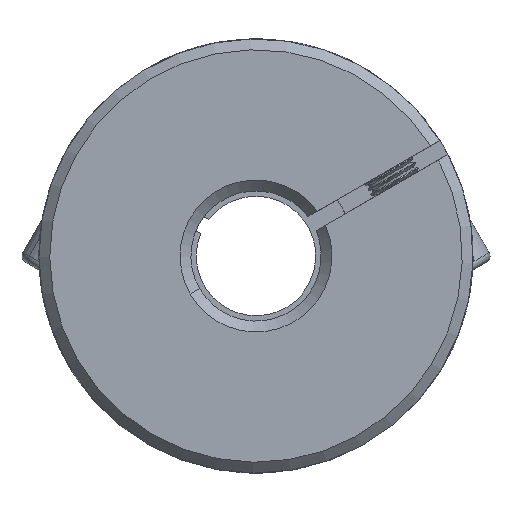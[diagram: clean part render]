
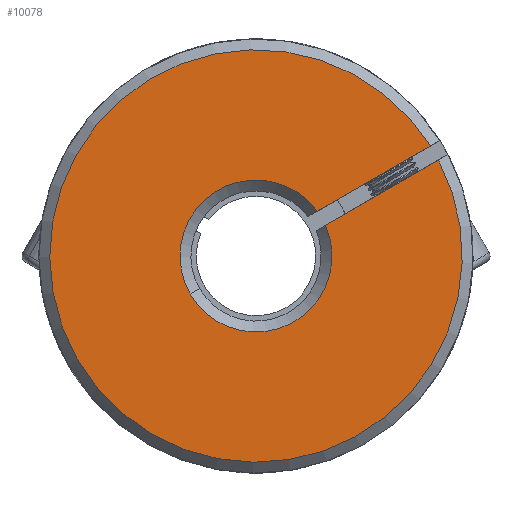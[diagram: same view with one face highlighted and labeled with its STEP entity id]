
A CAD part, front view. The second image highlights one B-rep face of the part: STEP entity #10078.
In plain terms, the highlighted planar face has unit normal (0, -1, 0).
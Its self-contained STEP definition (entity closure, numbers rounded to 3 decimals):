
#29 = ORIENTED_EDGE ( 'NONE', *, *, #12526, .T. ) ;
#378 = DIRECTION ( 'NONE',  ( 0.5, 0., -0.866 ) ) ;
#582 = CARTESIAN_POINT ( 'NONE',  ( -1.447, -31.239, 40. ) ) ;
#588 = VERTEX_POINT ( 'NONE', #6231 ) ;
#630 = ORIENTED_EDGE ( 'NONE', *, *, #8277, .F. ) ;
#962 = CARTESIAN_POINT ( 'NONE',  ( 4.083, -31.239, 42.329 ) ) ;
#1059 = ORIENTED_EDGE ( 'NONE', *, *, #13452, .F. ) ;
#1393 = DIRECTION ( 'NONE',  ( -0.866, 0., -0.5 ) ) ;
#1434 = CARTESIAN_POINT ( 'NONE',  ( -7.508, -31.239, 36.498 ) ) ;
#1847 = VERTEX_POINT ( 'NONE', #1434 ) ;
#2015 = CARTESIAN_POINT ( 'NONE',  ( 4.954, -31.239, 42.832 ) ) ;
#2135 = DIRECTION ( 'NONE',  ( 0.5, 0., -0.866 ) ) ;
#2177 = DIRECTION ( 'NONE',  ( 0., 1., 0. ) ) ;
#3001 = LINE ( 'NONE', #10188, #13800 ) ;
#3471 = CARTESIAN_POINT ( 'NONE',  ( 15.367, -31.239, 48.848 ) ) ;
#3682 = AXIS2_PLACEMENT_3D ( 'NONE', #11871, #7523, #9689 ) ;
#4314 = CARTESIAN_POINT ( 'NONE',  ( 52.98, -31.239, 45.743 ) ) ;
#4843 = VERTEX_POINT ( 'NONE', #3471 ) ;
#5516 = AXIS2_PLACEMENT_3D ( 'NONE', #4314, #2177, #2135 ) ;
#5744 = EDGE_CURVE ( 'NONE', #1847, #6952, #13101, .T. ) ;
#6231 = CARTESIAN_POINT ( 'NONE',  ( 14.616, -31.239, 50.147 ) ) ;
#6952 = VERTEX_POINT ( 'NONE', #12174 ) ;
#7406 = AXIS2_PLACEMENT_3D ( 'NONE', #10020, #11070, #378 ) ;
#7523 = DIRECTION ( 'NONE',  ( 0., 1., 0. ) ) ;
#7804 = ORIENTED_EDGE ( 'NONE', *, *, #9503, .T. ) ;
#8013 = FACE_OUTER_BOUND ( 'NONE', #9981, .T. ) ;
#8075 = ORIENTED_EDGE ( 'NONE', *, *, #5744, .T. ) ;
#8277 = EDGE_CURVE ( 'NONE', #11095, #4843, #11519, .T. ) ;
#8849 = AXIS2_PLACEMENT_3D ( 'NONE', #582, #10130, #12313 ) ;
#9503 = EDGE_CURVE ( 'NONE', #11095, #1847, #10543, .T. ) ;
#9689 = DIRECTION ( 'NONE',  ( 0.5, 0., -0.866 ) ) ;
#9981 = EDGE_LOOP ( 'NONE', ( #630, #7804, #8075, #1059, #29 ) ) ;
#10020 = CARTESIAN_POINT ( 'NONE',  ( -1.447, -31.239, 40. ) ) ;
#10078 = ADVANCED_FACE ( 'NONE', ( #8013 ), #12843, .F. ) ;
#10130 = DIRECTION ( 'NONE',  ( 0., -1., 0. ) ) ;
#10188 = CARTESIAN_POINT ( 'NONE',  ( 3.332, -31.239, 43.628 ) ) ;
#10543 = CIRCLE ( 'NONE', #3682, 7. ) ;
#10681 = DIRECTION ( 'NONE',  ( 0.866, 0., 0.5 ) ) ;
#11070 = DIRECTION ( 'NONE',  ( 0., 1., 0. ) ) ;
#11095 = VERTEX_POINT ( 'NONE', #2015 ) ;
#11519 = LINE ( 'NONE', #962, #12857 ) ;
#11871 = CARTESIAN_POINT ( 'NONE',  ( -1.447, -31.239, 40. ) ) ;
#12138 = CIRCLE ( 'NONE', #8849, 19. ) ;
#12174 = CARTESIAN_POINT ( 'NONE',  ( 4.204, -31.239, 44.131 ) ) ;
#12313 = DIRECTION ( 'NONE',  ( 0.5, 0., -0.866 ) ) ;
#12526 = EDGE_CURVE ( 'NONE', #588, #4843, #12138, .T. ) ;
#12843 = PLANE ( 'NONE',  #5516 ) ;
#12857 = VECTOR ( 'NONE', #10681, 1000. ) ;
#13101 = CIRCLE ( 'NONE', #7406, 7. ) ;
#13452 = EDGE_CURVE ( 'NONE', #588, #6952, #3001, .T. ) ;
#13800 = VECTOR ( 'NONE', #1393, 1000. ) ;
